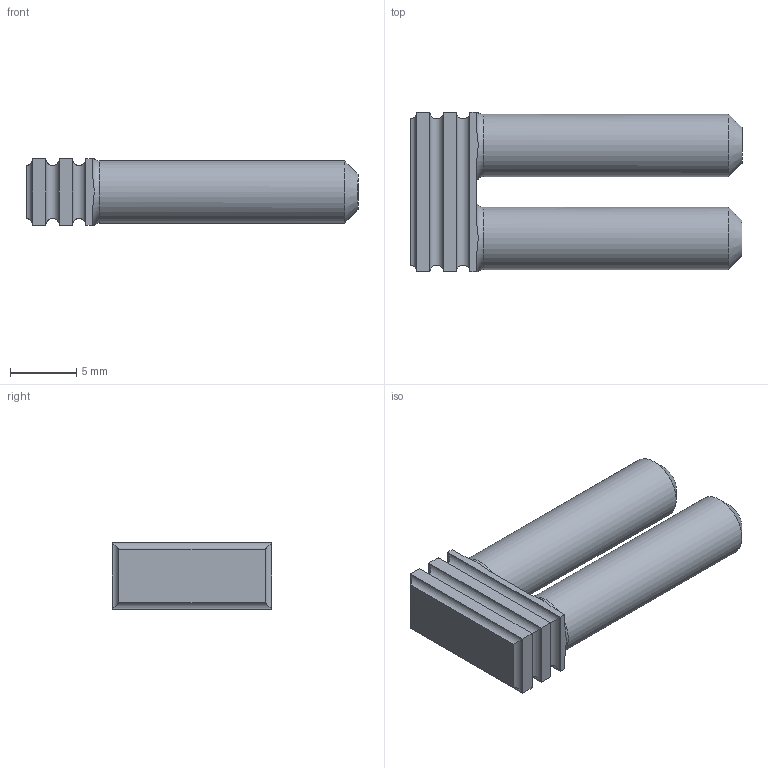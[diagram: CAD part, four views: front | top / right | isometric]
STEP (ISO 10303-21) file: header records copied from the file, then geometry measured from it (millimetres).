
FILE_DESCRIPTION(/* description */ (''),/* implementation_level */ '2;1');
FILE_NAME(/* name */ 'C:\Users\Diego\Downloads\9\Animalitos\E2.stp',/* time_stamp */ '2019-07-10T16:14:22-04:00',/* author */ ('Diego'),/* organization */ (''),/* preprocessor_version */ 'ST-DEVELOPER v16.5',/* originating_system */ 'Autodesk Inventor 2017',/* authorisation */ '');
FILE_SCHEMA (('AUTOMOTIVE_DESIGN { 1 0 10303 214 3 1 1 }'));
Length unit declared in the file: millimetre
Products named in the file (1): E2
Bounding box: 25 x 12 x 5 mm (x, y, z)
Volume: 951.1 mm3; surface area: 878 mm2
Topology: 1 solids, 1 shells, 38 faces, 84 edges, 48 vertices
Faces by surface type: plane 20, cylinder 14, torus 2, cone 2
Full cylindrical faces by diameter (mm): 4.7 x2
Entity records: 1044 total; most frequent: CARTESIAN_POINT 221, DIRECTION 172, ORIENTED_EDGE 152, EDGE_CURVE 76, AXIS2_PLACEMENT_3D 63, LINE 46, VECTOR 46, VERTEX_POINT 46
